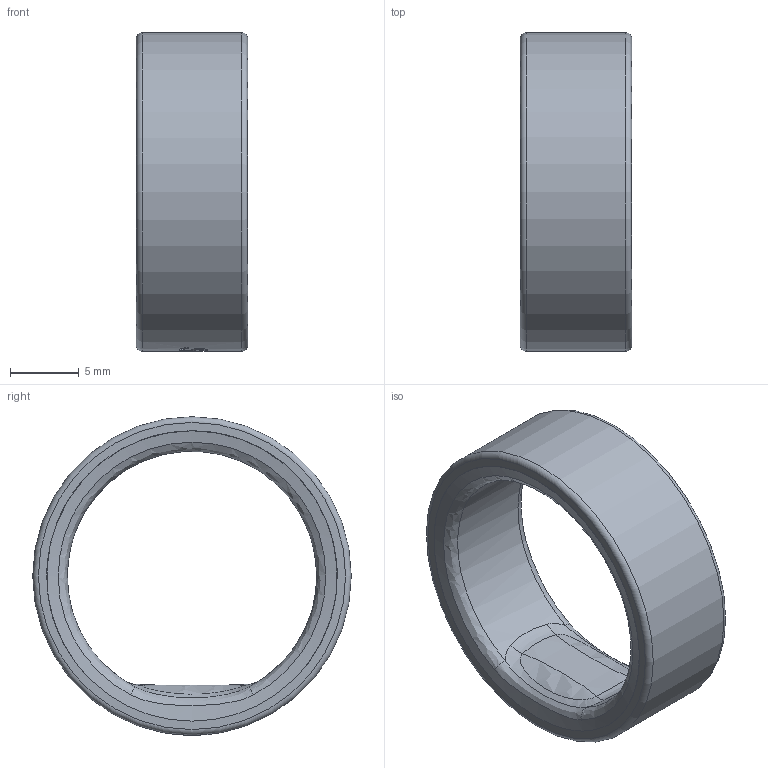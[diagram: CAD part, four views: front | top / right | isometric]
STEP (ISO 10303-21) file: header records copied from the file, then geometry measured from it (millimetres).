
FILE_DESCRIPTION(/* description */ (''),/* implementation_level */ '2;1');
FILE_NAME(/* name */ 'Size 07_Sizing Kit v3.step',/* time_stamp */ '2024-05-07T15:24:04+05:30',/* author */ (''),/* organization */ (''),/* preprocessor_version */ 'ST-DEVELOPER v20',/* originating_system */ 'Autodesk Translation Framework v12.20.1.177',/* authorisation */ '');
FILE_SCHEMA (('AUTOMOTIVE_DESIGN { 1 0 10303 214 3 1 1 }'));
Length unit declared in the file: millimetre
Products named in the file (1): Size 07_Sizing Kit
Bounding box: 8.1 x 23.2 x 23.2 mm (x, y, z)
Volume: 1285 mm3; surface area: 1601.9 mm2
Topology: 1 solids, 3 shells, 97 faces, 251 edges, 164 vertices
Faces by surface type: bspline 67, plane 16, cylinder 10, cone 2, torus 2
Full cylindrical faces by diameter (mm): 21.244 x2, 22.566 x2, 23.2 x1
Entity records: 5421 total; most frequent: CARTESIAN_POINT 3419, ORIENTED_EDGE 502, EDGE_CURVE 251, DIRECTION 230, VERTEX_POINT 164, B_SPLINE_CURVE_WITH_KNOTS 130, EDGE_LOOP 107, FACE_OUTER_BOUND 97
